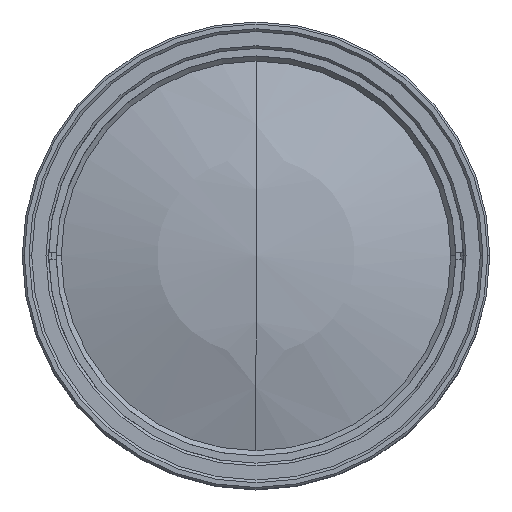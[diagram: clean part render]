
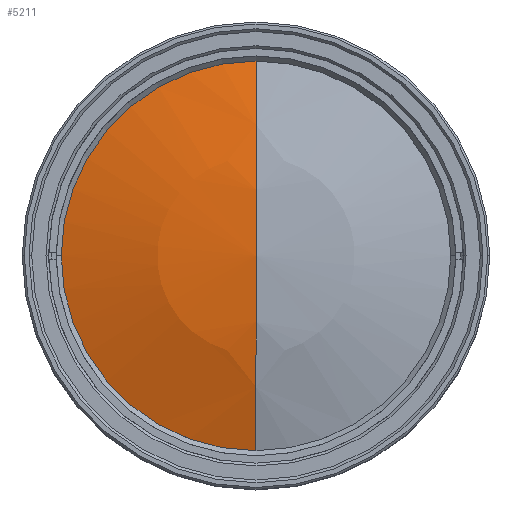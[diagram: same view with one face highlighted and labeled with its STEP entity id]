
A CAD part, top view. The second image highlights one B-rep face of the part: STEP entity #5211.
In plain terms, the highlighted spherical face has radius 83.85 mm.
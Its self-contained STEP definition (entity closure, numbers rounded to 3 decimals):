
#222 = DIRECTION ( 'NONE',  ( 0., -1., 0. ) ) ;
#1765 = DIRECTION ( 'NONE',  ( -1., 0., 0. ) ) ;
#2147 = CARTESIAN_POINT ( 'NONE',  ( 0., 0., 80.157 ) ) ;
#3209 = AXIS2_PLACEMENT_3D ( 'NONE', #9757, #17403, #222 ) ;
#4316 = ORIENTED_EDGE ( 'NONE', *, *, #8944, .F. ) ;
#4991 = CARTESIAN_POINT ( 'NONE',  ( 0., 0., 1.39 ) ) ;
#5211 = ADVANCED_FACE ( 'NONE', ( #24031 ), #22165, .T. ) ;
#7710 = EDGE_CURVE ( 'NONE', #11632, #15391, #9000, .T. ) ;
#8944 = EDGE_CURVE ( 'NONE', #23528, #11632, #24223, .T. ) ;
#9000 = CIRCLE ( 'NONE', #17799, 28.75 ) ;
#9757 = CARTESIAN_POINT ( 'NONE',  ( 0., 0., 1.39 ) ) ;
#9801 = DIRECTION ( 'NONE',  ( 0., 0., -1. ) ) ;
#9847 = ORIENTED_EDGE ( 'NONE', *, *, #11143, .T. ) ;
#11143 = EDGE_CURVE ( 'NONE', #23528, #15391, #14030, .T. ) ;
#11295 = CARTESIAN_POINT ( 'NONE',  ( 0., 0., 80.157 ) ) ;
#11632 = VERTEX_POINT ( 'NONE', #14354 ) ;
#11803 = ORIENTED_EDGE ( 'NONE', *, *, #7710, .F. ) ;
#12253 = AXIS2_PLACEMENT_3D ( 'NONE', #4991, #12645, #20307 ) ;
#12645 = DIRECTION ( 'NONE',  ( 0., 0., -1. ) ) ;
#14030 = CIRCLE ( 'NONE', #3209, 83.85 ) ;
#14144 = CARTESIAN_POINT ( 'NONE',  ( 0., -28.75, 80.157 ) ) ;
#14354 = CARTESIAN_POINT ( 'NONE',  ( -28.75, 0., 80.157 ) ) ;
#15391 = VERTEX_POINT ( 'NONE', #22024 ) ;
#17403 = DIRECTION ( 'NONE',  ( -1., 0., 0. ) ) ;
#17454 = DIRECTION ( 'NONE',  ( -1., 0., 0. ) ) ;
#17799 = AXIS2_PLACEMENT_3D ( 'NONE', #2147, #9801, #17454 ) ;
#18931 = DIRECTION ( 'NONE',  ( 0., 0., -1. ) ) ;
#20307 = DIRECTION ( 'NONE',  ( 0., 1., 0. ) ) ;
#21029 = AXIS2_PLACEMENT_3D ( 'NONE', #11295, #18931, #1765 ) ;
#21141 = EDGE_LOOP ( 'NONE', ( #4316, #9847, #11803 ) ) ;
#22024 = CARTESIAN_POINT ( 'NONE',  ( 0., 28.75, 80.157 ) ) ;
#22165 = SPHERICAL_SURFACE ( 'NONE', #12253, 83.85 ) ;
#23528 = VERTEX_POINT ( 'NONE', #14144 ) ;
#24031 = FACE_OUTER_BOUND ( 'NONE', #21141, .T. ) ;
#24223 = CIRCLE ( 'NONE', #21029, 28.75 ) ;
